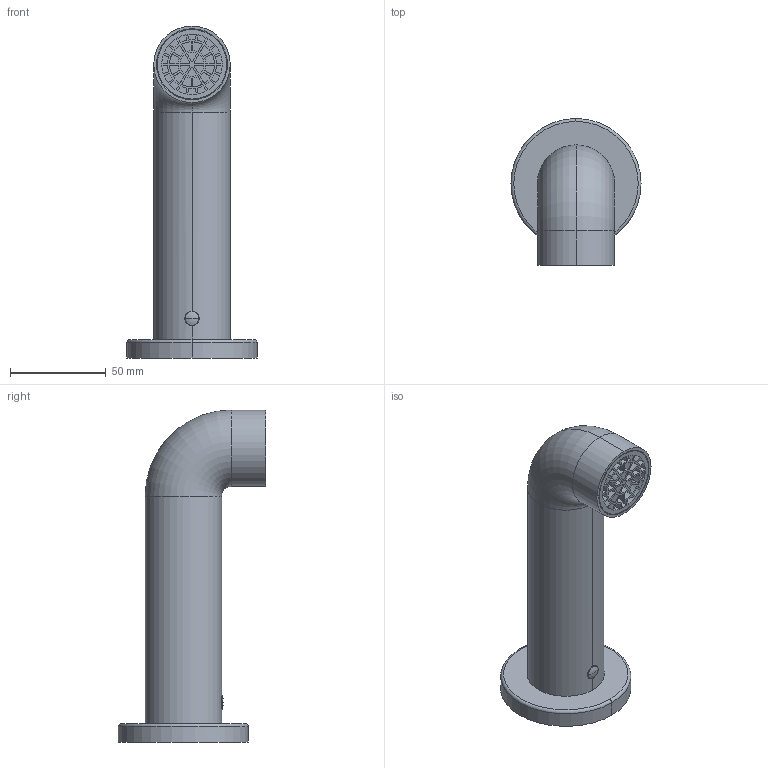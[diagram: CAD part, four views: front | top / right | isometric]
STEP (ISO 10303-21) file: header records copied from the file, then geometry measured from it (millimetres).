
FILE_DESCRIPTION (( 'STEP AP203' ), '1' );
FILE_NAME ('BEC-4520-73_3D.STEP', '2023-01-17T21:10:48', ( '' ), ( '' ), 'SwSTEP 2.0', 'SolidWorks 2022', '' );
FILE_SCHEMA (( 'CONFIG_CONTROL_DESIGN' ));
Length unit declared in the file: millimetre
Products named in the file (2): BEC-4520-73_3D; BEC-4520-73_volume
Assembly tree (1 placements, depth 2):
  BEC-4520-73_3D
    BEC-4520-73_volume
Bounding box: 68 x 77 x 173.5 mm (x, y, z)
Volume: 248577.9 mm3; surface area: 41407.5 mm2
Topology: 4 solids, 4 shells, 243 faces, 696 edges, 456 vertices
Faces by surface type: cylinder 103, plane 100, torus 27, bspline 6, cone 5, sphere 2
Entity records: 10101 total; most frequent: CARTESIAN_POINT 3357, ORIENTED_EDGE 1386, DIRECTION 1358, EDGE_CURVE 693, AXIS2_PLACEMENT_3D 503, VERTEX_POINT 455, LINE 352, VECTOR 352
